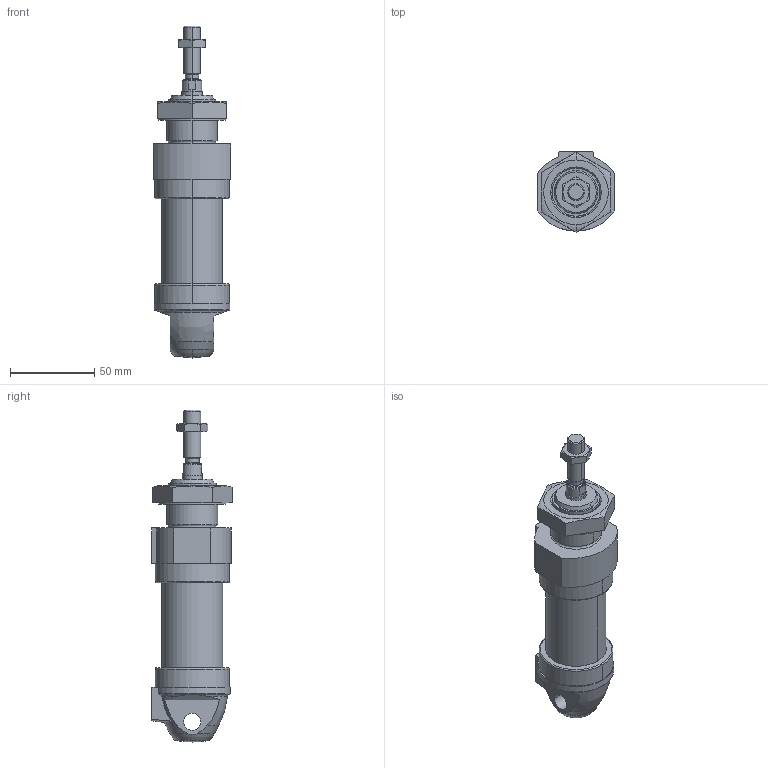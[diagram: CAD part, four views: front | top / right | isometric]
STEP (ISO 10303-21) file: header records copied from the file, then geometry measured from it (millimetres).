
FILE_DESCRIPTION((''),'2;1');
FILE_NAME('1333202000_ASM','2017-09-14T',('hug2hc'),(''),'CREO PARAMETRIC BY PTC INC, 2016260','CREO PARAMETRIC BY PTC INC, 2016260','');
FILE_SCHEMA(('CONFIG_CONTROL_DESIGN'));
Length unit declared in the file: millimetre
Products named in the file (5): 1333202000-A; 1333202000-B; 1333202000-C; 3590302000; 1333202000_ASM
Assembly tree (4 placements, depth 2):
  1333202000_ASM
    1333202000-A
    1333202000-B
    1333202000-C
    3590302000
Bounding box: 46 x 47.67 x 197 mm (x, y, z)
Volume: 167768.6 mm3; surface area: 48140.3 mm2
Topology: 4 solids, 4 shells, 136 faces, 306 edges, 189 vertices
Faces by surface type: plane 48, cylinder 40, cone 30, torus 11, sphere 4, bspline 3
Entity records: 4302 total; most frequent: CARTESIAN_POINT 1105, DIRECTION 685, ORIENTED_EDGE 608, EDGE_CURVE 304, AXIS2_PLACEMENT_3D 284, VERTEX_POINT 189, EDGE_LOOP 155, CIRCLE 142
